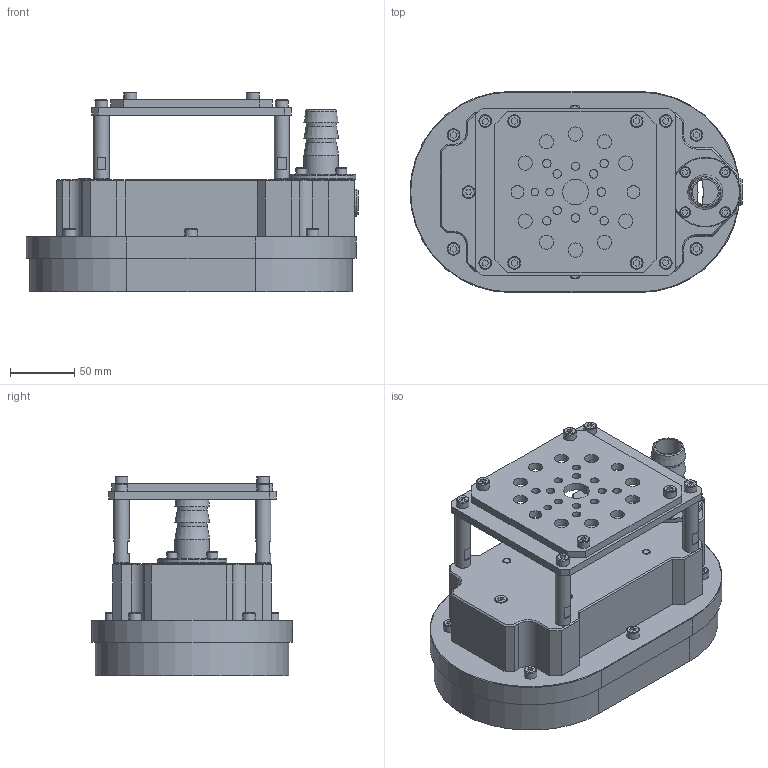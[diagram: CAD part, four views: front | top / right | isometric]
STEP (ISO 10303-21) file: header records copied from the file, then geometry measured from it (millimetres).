
FILE_DESCRIPTION(('STEP AP214'),'1');
FILE_NAME('SGP-H2B-150X250-CRT30-G02.stp','2024-06-28T04:17:03',(' '),(' '),'Spatial InterOp 3D',' ',' ');
FILE_SCHEMA(('AUTOMOTIVE_DESIGN { 1 0 10303 214 1 1 1 1 }'));
Length unit declared in the file: millimetre
Products named in the file (56): SGP-H2-150X250-CRT30-G02; Body; CBSTS6-12; Stopper; shaft 02; shaft 03; PAD; Ring; Base; CB6; ねじ : 穴付き - M6.0 x 12.0; SETGR12-50; M6.0 x 10.0; MSWTSK4; 外付けポートAssy; Fitting25; M5×10CP; ねじ : 穴付き - M5.0 x 10.0; OリングS-31.5; 1/8プラグ; FLプレートB; _SGP-FL-B-f
Assembly tree (55 placements, depth 4):
  SGP-H2-150X250-CRT30-G02
    Body
    CBSTS6-12
    CBSTS6-12
    CBSTS6-12
    CBSTS6-12
    Stopper
    shaft 02
    shaft 03
    shaft 03
    shaft 02
    shaft 02
    shaft 03
    shaft 03
    shaft 02
    PAD
    Ring
    Base
    CB6
      ねじ : 穴付き - M6.0 x 12.0
    CB6
      ねじ : 穴付き - M6.0 x 12.0
    CB6
      ねじ : 穴付き - M6.0 x 12.0
    CB6
      ねじ : 穴付き - M6.0 x 12.0
    CB6
      ねじ : 穴付き - M6.0 x 12.0
      ねじ : 穴付き - M6.0 x 12.0
      ねじ : 穴付き - M6.0 x 12.0
      ねじ : 穴付き - M6.0 x 12.0
    SETGR12-50
    SETGR12-50
    SETGR12-50
    SETGR12-50
    M6.0 x 10.0
    M6.0 x 10.0
    M6.0 x 10.0
    M6.0 x 10.0
    M6.0 x 10.0
    M6.0 x 10.0
    MSWTSK4
    外付けポートAssy
      Fitting25
      M5×10CP
        ねじ : 穴付き - M5.0 x 10.0
      M5×10CP
        ねじ : 穴付き - M5.0 x 10.0
      M5×10CP
        ねじ : 穴付き - M5.0 x 10.0
      M5×10CP
        ねじ : 穴付き - M5.0 x 10.0
      OリングS-31.5
    1/8プラグ
    FLプレートB
      _SGP-FL-B-f
Bounding box: 257.51 x 156 x 155.12 mm (x, y, z)
Volume: 1278931.5 mm3; surface area: 390757 mm2
Topology: 44 solids, 44 shells, 951 faces, 2098 edges, 1355 vertices
Faces by surface type: plane 552, cylinder 275, cone 118, torus 6
Full cylindrical faces by diameter (mm): 4.4 x4, 4.917 x4, 5 x20, 5.5 x4, 6 x44, 6.6 x15, 7 x14, 8.385 x4, 8.5 x1, 9.87 x14, 10 x29, 10.5 x3, 11 x10, 12 x4, 13 x8, 15 x16, 18 x1, 20 x3, 23.474 x2, 27 x3, 30 x1, 36 x1, 54 x1, 118 x1
Entity records: 34333 total; most frequent: DIRECTION 4466, CARTESIAN_POINT 4413, ORIENTED_EDGE 3424, AXIS2_PLACEMENT_3D 1745, EDGE_CURVE 1712, EDGE_LOOP 1583, VERTEX_POINT 1312, FACE_OUTER_BOUND 1162
